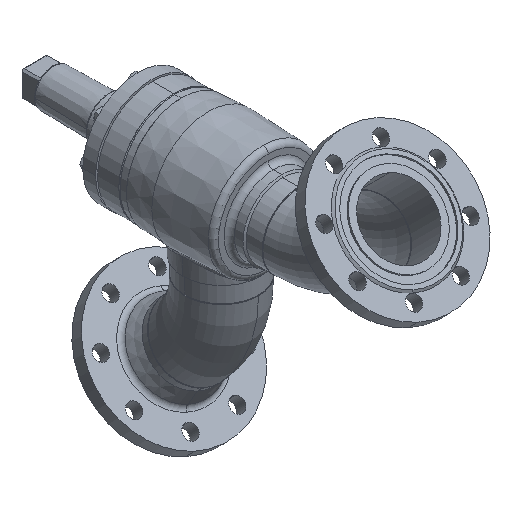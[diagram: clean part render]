
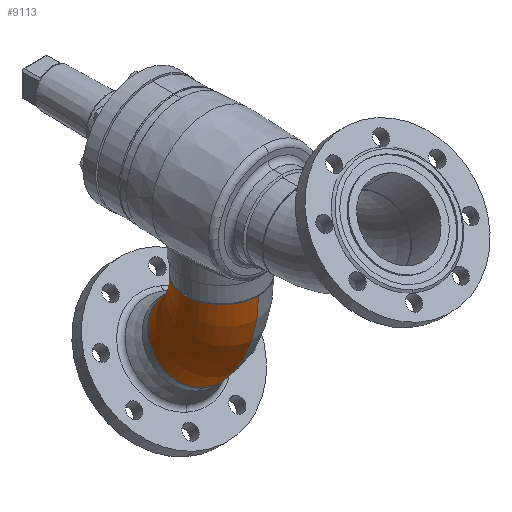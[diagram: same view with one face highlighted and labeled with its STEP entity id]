
A CAD part, isometric view. The second image highlights one B-rep face of the part: STEP entity #9113.
In plain terms, the highlighted toroidal (fillet/blend) face has major radius 152 mm and minor radius 57.15 mm.
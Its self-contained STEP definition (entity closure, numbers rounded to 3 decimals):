
#16509 = EDGE_CURVE ( 'NONE', #4494, #2264, #17789, .T. ) ;
#17789 = CIRCLE ( 'NONE', #17790, 94.85 ) ;
#17790 = AXIS2_PLACEMENT_3D ( 'NONE', #17793, #17794, #17795 ) ;
#17793 = CARTESIAN_POINT ( 'NONE',  ( 0., -152., 0. ) ) ;
#17794 = DIRECTION ( 'NONE',  ( 0., 0., 1. ) ) ;
#17795 = DIRECTION ( 'NONE',  ( 1., 0., 0. ) ) ;
#18075 = CARTESIAN_POINT ( 'NONE',  ( 67.069, -84.931, 0. ) ) ;
#1913 = ORIENTED_EDGE ( 'NONE', *, *, #16509, .F. ) ;
#18386 = CARTESIAN_POINT ( 'NONE',  ( 147.891, -4.109, 0. ) ) ;
#2120 = FACE_OUTER_BOUND ( 'NONE', #8807, .T. ) ;
#2121 = TOROIDAL_SURFACE ( 'NONE', #2122, 152., 57.15 ) ;
#2122 = AXIS2_PLACEMENT_3D ( 'NONE', #2123, #2124, #2125 ) ;
#2123 = CARTESIAN_POINT ( 'NONE',  ( 0., -152., 0. ) ) ;
#2124 = DIRECTION ( 'NONE',  ( 0., 0., 1. ) ) ;
#2125 = DIRECTION ( 'NONE',  ( 1., 0., 0. ) ) ;
#18549 = CIRCLE ( 'NONE', #18550, 57.15 ) ;
#18550 = AXIS2_PLACEMENT_3D ( 'NONE', #18553, #18554, #18555 ) ;
#18553 = CARTESIAN_POINT ( 'NONE',  ( 107.48, -44.52, 0. ) ) ;
#18554 = DIRECTION ( 'NONE',  ( 0.707, -0.707, 0. ) ) ;
#18555 = DIRECTION ( 'NONE',  ( 0., 0., -1. ) ) ;
#2264 = VERTEX_POINT ( 'NONE', #11660 ) ;
#2492 = EDGE_CURVE ( 'NONE', #3369, #2264, #12031, .T. ) ;
#2848 = ORIENTED_EDGE ( 'NONE', *, *, #2492, .T. ) ;
#3369 = VERTEX_POINT ( 'NONE', #14319 ) ;
#3592 = EDGE_CURVE ( 'NONE', #4717, #3369, #14524, .T. ) ;
#3966 = ORIENTED_EDGE ( 'NONE', *, *, #3592, .T. ) ;
#4494 = VERTEX_POINT ( 'NONE', #18075 ) ;
#4717 = VERTEX_POINT ( 'NONE', #18386 ) ;
#4945 = EDGE_CURVE ( 'NONE', #4717, #4494, #18549, .T. ) ;
#5389 = ORIENTED_EDGE ( 'NONE', *, *, #4945, .F. ) ;
#8807 = EDGE_LOOP ( 'NONE', ( #5389, #3966, #2848, #1913 ) ) ;
#9113 = ADVANCED_FACE ( 'NONE', ( #2120 ), #2121, .T. ) ;
#11660 = CARTESIAN_POINT ( 'NONE',  ( 0., -57.15, 0. ) ) ;
#12031 = CIRCLE ( 'NONE', #12032, 57.15 ) ;
#12032 = AXIS2_PLACEMENT_3D ( 'NONE', #12033, #12034, #12037 ) ;
#12033 = CARTESIAN_POINT ( 'NONE',  ( 0., 0., 0. ) ) ;
#12034 = DIRECTION ( 'NONE',  ( 1., 0., 0. ) ) ;
#12037 = DIRECTION ( 'NONE',  ( 0., 0., -1. ) ) ;
#14319 = CARTESIAN_POINT ( 'NONE',  ( 0., 57.15, 0. ) ) ;
#14524 = CIRCLE ( 'NONE', #14525, 209.15 ) ;
#14525 = AXIS2_PLACEMENT_3D ( 'NONE', #14526, #14527, #14528 ) ;
#14526 = CARTESIAN_POINT ( 'NONE',  ( 0., -152., 0. ) ) ;
#14527 = DIRECTION ( 'NONE',  ( 0., 0., 1. ) ) ;
#14528 = DIRECTION ( 'NONE',  ( 1., 0., 0. ) ) ;
